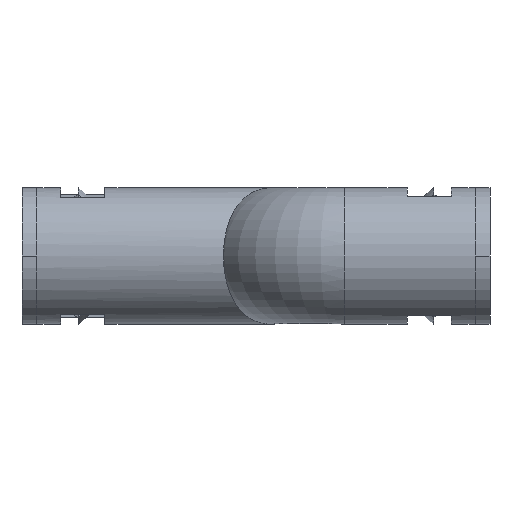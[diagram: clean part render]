
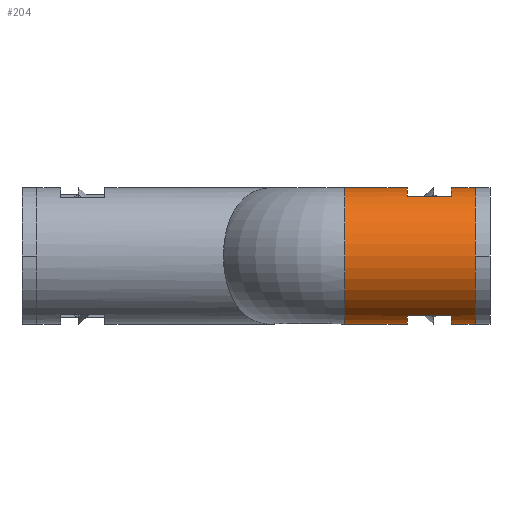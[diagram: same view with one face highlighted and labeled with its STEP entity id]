
A CAD part, left-side view. The second image highlights one B-rep face of the part: STEP entity #204.
In plain terms, the highlighted cylindrical face has radius 11.5 mm (diameter 23 mm), a partial arc.
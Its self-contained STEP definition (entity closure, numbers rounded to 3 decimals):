
#153 = ORIENTED_EDGE ( 'NONE', *, *, #229, .T. ) ;
#185 = EDGE_CURVE ( 'NONE', #215, #238, #1912, .T. ) ;
#186 = VERTEX_POINT ( 'NONE', #1920 ) ;
#187 = EDGE_CURVE ( 'NONE', #193, #238, #1903, .T. ) ;
#188 = EDGE_CURVE ( 'NONE', #203, #193, #1963, .T. ) ;
#189 = ORIENTED_EDGE ( 'NONE', *, *, #192, .T. ) ;
#190 = ORIENTED_EDGE ( 'NONE', *, *, #342, .F. ) ;
#192 = EDGE_CURVE ( 'NONE', #206, #203, #1958, .T. ) ;
#193 = VERTEX_POINT ( 'NONE', #1956 ) ;
#194 = ORIENTED_EDGE ( 'NONE', *, *, #187, .T. ) ;
#195 = ORIENTED_EDGE ( 'NONE', *, *, #188, .T. ) ;
#197 = ORIENTED_EDGE ( 'NONE', *, *, #202, .T. ) ;
#198 = EDGE_CURVE ( 'NONE', #201, #223, #1942, .T. ) ;
#199 = ORIENTED_EDGE ( 'NONE', *, *, #198, .T. ) ;
#200 = EDGE_LOOP ( 'NONE', ( #190, #232, #153, #199, #197, #189, #195, #194, #205, #334, #212, #211 ) ) ;
#201 = VERTEX_POINT ( 'NONE', #1946 ) ;
#202 = EDGE_CURVE ( 'NONE', #223, #206, #1943, .T. ) ;
#203 = VERTEX_POINT ( 'NONE', #1951 ) ;
#204 = ADVANCED_FACE ( 'NONE', ( #1938 ), #1957, .T. ) ;
#205 = ORIENTED_EDGE ( 'NONE', *, *, #185, .F. ) ;
#206 = VERTEX_POINT ( 'NONE', #1945 ) ;
#208 = VERTEX_POINT ( 'NONE', #1937 ) ;
#211 = ORIENTED_EDGE ( 'NONE', *, *, #333, .T. ) ;
#212 = ORIENTED_EDGE ( 'NONE', *, *, #214, .T. ) ;
#214 = EDGE_CURVE ( 'NONE', #216, #186, #1933, .T. ) ;
#215 = VERTEX_POINT ( 'NONE', #1983 ) ;
#216 = VERTEX_POINT ( 'NONE', #1991 ) ;
#221 = EDGE_CURVE ( 'NONE', #222, #208, #447, .T. ) ;
#222 = VERTEX_POINT ( 'NONE', #1971 ) ;
#223 = VERTEX_POINT ( 'NONE', #1978 ) ;
#229 = EDGE_CURVE ( 'NONE', #222, #201, #2011, .T. ) ;
#232 = ORIENTED_EDGE ( 'NONE', *, *, #221, .F. ) ;
#235 = VERTEX_POINT ( 'NONE', #2012 ) ;
#238 = VERTEX_POINT ( 'NONE', #2006 ) ;
#333 = EDGE_CURVE ( 'NONE', #186, #235, #2226, .T. ) ;
#334 = ORIENTED_EDGE ( 'NONE', *, *, #335, .T. ) ;
#335 = EDGE_CURVE ( 'NONE', #215, #216, #2277, .T. ) ;
#342 = EDGE_CURVE ( 'NONE', #208, #235, #2267, .T. ) ;
#442 = AXIS2_PLACEMENT_3D ( 'NONE', #450, #449, #456 ) ;
#447 = CIRCLE ( 'NONE', #442, 11.5 ) ;
#448 = AXIS2_PLACEMENT_3D ( 'NONE', #952, #947, #1728 ) ;
#449 = DIRECTION ( 'NONE',  ( 0., 1., 0. ) ) ;
#450 = CARTESIAN_POINT ( 'NONE',  ( -12., 22., 0. ) ) ;
#456 = DIRECTION ( 'NONE',  ( 0., 0., 1. ) ) ;
#947 = DIRECTION ( 'NONE',  ( 0., 1., 0. ) ) ;
#952 = CARTESIAN_POINT ( 'NONE',  ( -12., 11.5, 0. ) ) ;
#1728 = DIRECTION ( 'NONE',  ( 0., 0., 1. ) ) ;
#1903 = CIRCLE ( 'NONE', #1904, 11.5 ) ;
#1904 = AXIS2_PLACEMENT_3D ( 'NONE', #1966, #1965, #1964 ) ;
#1910 = VECTOR ( 'NONE', #1970, 1000. ) ;
#1911 = CARTESIAN_POINT ( 'NONE',  ( -12., 22., 11.5 ) ) ;
#1912 = LINE ( 'NONE', #1911, #1910 ) ;
#1920 = CARTESIAN_POINT ( 'NONE',  ( -17.5, 11.5, 10.1 ) ) ;
#1931 = CARTESIAN_POINT ( 'NONE',  ( -12., 22., 0. ) ) ;
#1932 = CARTESIAN_POINT ( 'NONE',  ( -17.5, 22., 10.1 ) ) ;
#1933 = LINE ( 'NONE', #1932, #1981 ) ;
#1934 = DIRECTION ( 'NONE',  ( 0., -1., 0. ) ) ;
#1935 = VECTOR ( 'NONE', #1934, 1000. ) ;
#1936 = CARTESIAN_POINT ( 'NONE',  ( -17.5, 22., -10.1 ) ) ;
#1937 = CARTESIAN_POINT ( 'NONE',  ( -12., 22., 11.5 ) ) ;
#1938 = FACE_OUTER_BOUND ( 'NONE', #200, .T. ) ;
#1940 = DIRECTION ( 'NONE',  ( 0., 0., 1. ) ) ;
#1941 = AXIS2_PLACEMENT_3D ( 'NONE', #1944, #1954, #1940 ) ;
#1942 = CIRCLE ( 'NONE', #1941, 11.5 ) ;
#1943 = LINE ( 'NONE', #1936, #1935 ) ;
#1944 = CARTESIAN_POINT ( 'NONE',  ( -12., 11.5, 0. ) ) ;
#1945 = CARTESIAN_POINT ( 'NONE',  ( -17.5, 4., -10.1 ) ) ;
#1946 = CARTESIAN_POINT ( 'NONE',  ( -12., 11.5, -11.5 ) ) ;
#1947 = DIRECTION ( 'NONE',  ( 0., 0., -1. ) ) ;
#1948 = DIRECTION ( 'NONE',  ( 0., -1., 0. ) ) ;
#1949 = CARTESIAN_POINT ( 'NONE',  ( -12., 4., 0. ) ) ;
#1950 = AXIS2_PLACEMENT_3D ( 'NONE', #1949, #1948, #1947 ) ;
#1951 = CARTESIAN_POINT ( 'NONE',  ( -12., 4., -11.5 ) ) ;
#1954 = DIRECTION ( 'NONE',  ( 0., 1., 0. ) ) ;
#1956 = CARTESIAN_POINT ( 'NONE',  ( -12., 0., -11.5 ) ) ;
#1957 = CYLINDRICAL_SURFACE ( 'NONE', #1994, 11.5 ) ;
#1958 = CIRCLE ( 'NONE', #1950, 11.5 ) ;
#1960 = DIRECTION ( 'NONE',  ( 0., -1., 0. ) ) ;
#1961 = VECTOR ( 'NONE', #1960, 1000. ) ;
#1962 = CARTESIAN_POINT ( 'NONE',  ( -12., 22., -11.5 ) ) ;
#1963 = LINE ( 'NONE', #1962, #1961 ) ;
#1964 = DIRECTION ( 'NONE',  ( 0., 0., 1. ) ) ;
#1965 = DIRECTION ( 'NONE',  ( 0., 1., 0. ) ) ;
#1966 = CARTESIAN_POINT ( 'NONE',  ( -12., 0., 0. ) ) ;
#1970 = DIRECTION ( 'NONE',  ( 0., -1., 0. ) ) ;
#1971 = CARTESIAN_POINT ( 'NONE',  ( -12., 22., -11.5 ) ) ;
#1978 = CARTESIAN_POINT ( 'NONE',  ( -17.5, 11.5, -10.1 ) ) ;
#1980 = DIRECTION ( 'NONE',  ( 0., 1., 0. ) ) ;
#1981 = VECTOR ( 'NONE', #1980, 1000. ) ;
#1983 = CARTESIAN_POINT ( 'NONE',  ( -12., 4., 11.5 ) ) ;
#1991 = CARTESIAN_POINT ( 'NONE',  ( -17.5, 4., 10.1 ) ) ;
#1992 = DIRECTION ( 'NONE',  ( 0., 0., -1. ) ) ;
#1993 = DIRECTION ( 'NONE',  ( 0., -1., 0. ) ) ;
#1994 = AXIS2_PLACEMENT_3D ( 'NONE', #1931, #1993, #1992 ) ;
#2006 = CARTESIAN_POINT ( 'NONE',  ( -12., 0., 11.5 ) ) ;
#2008 = DIRECTION ( 'NONE',  ( 0., -1., 0. ) ) ;
#2009 = VECTOR ( 'NONE', #2008, 1000. ) ;
#2010 = CARTESIAN_POINT ( 'NONE',  ( -12., 22., -11.5 ) ) ;
#2011 = LINE ( 'NONE', #2010, #2009 ) ;
#2012 = CARTESIAN_POINT ( 'NONE',  ( -12., 11.5, 11.5 ) ) ;
#2226 = CIRCLE ( 'NONE', #448, 11.5 ) ;
#2259 = DIRECTION ( 'NONE',  ( 0., -1., 0. ) ) ;
#2260 = VECTOR ( 'NONE', #2259, 1000. ) ;
#2267 = LINE ( 'NONE', #2275, #2260 ) ;
#2268 = DIRECTION ( 'NONE',  ( 0., 0., -1. ) ) ;
#2269 = DIRECTION ( 'NONE',  ( 0., -1., 0. ) ) ;
#2270 = CARTESIAN_POINT ( 'NONE',  ( -12., 4., 0. ) ) ;
#2271 = AXIS2_PLACEMENT_3D ( 'NONE', #2270, #2269, #2268 ) ;
#2275 = CARTESIAN_POINT ( 'NONE',  ( -12., 22., 11.5 ) ) ;
#2277 = CIRCLE ( 'NONE', #2271, 11.5 ) ;
